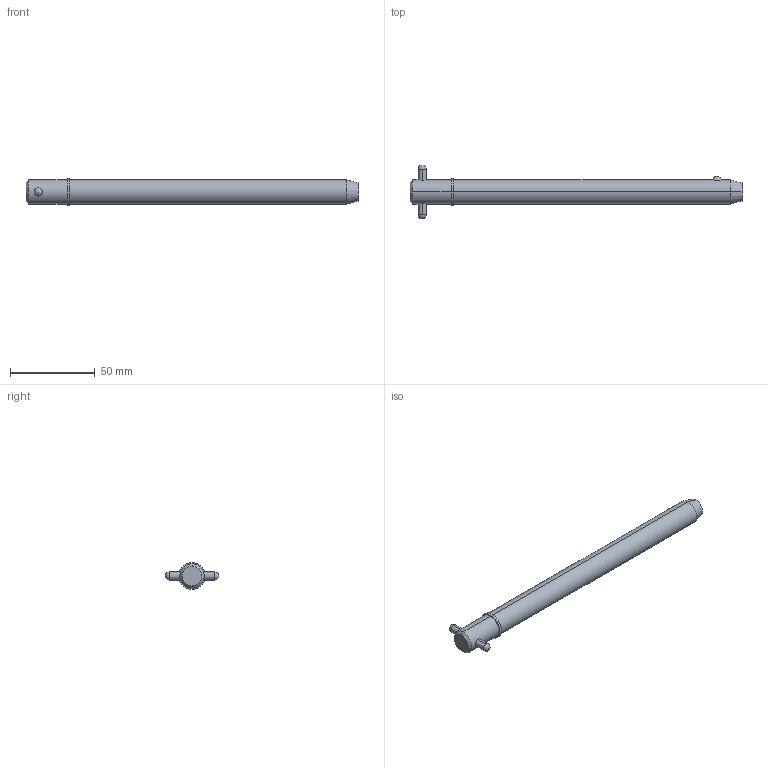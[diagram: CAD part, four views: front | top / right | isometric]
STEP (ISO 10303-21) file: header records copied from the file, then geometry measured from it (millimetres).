
FILE_DESCRIPTION (( 'STEP AP203' ), '1' );
FILE_NAME ('33018.W5660.step', '2024-11-19T17:17:41', ( '' ), ( '' ), 'SwSTEP 2.0', 'SolidWorks 2019', '' );
FILE_SCHEMA (( 'CONFIG_CONTROL_DESIGN' ));
Length unit declared in the file: millimetre
Products named in the file (3): 33018.W5660; Part1_33018.W5660; Part2_33018.W5660
Assembly tree (2 placements, depth 2):
  33018.W5660
    Part1_33018.W5660
    Part2_33018.W5660
Bounding box: 195.55 x 31.75 x 15.72 mm (x, y, z)
Volume: 31438.3 mm3; surface area: 9697.3 mm2
Topology: 2 solids, 2 shells, 22 faces, 47 edges, 30 vertices
Faces by surface type: cylinder 10, sphere 4, cone 4, plane 4
Entity records: 1033 total; most frequent: CARTESIAN_POINT 276, DIRECTION 110, ORIENTED_EDGE 82, AXIS2_PLACEMENT_3D 48, EDGE_CURVE 41, EDGE_LOOP 27, VERTEX_POINT 26, PERSON_AND_ORGANIZATION 26
